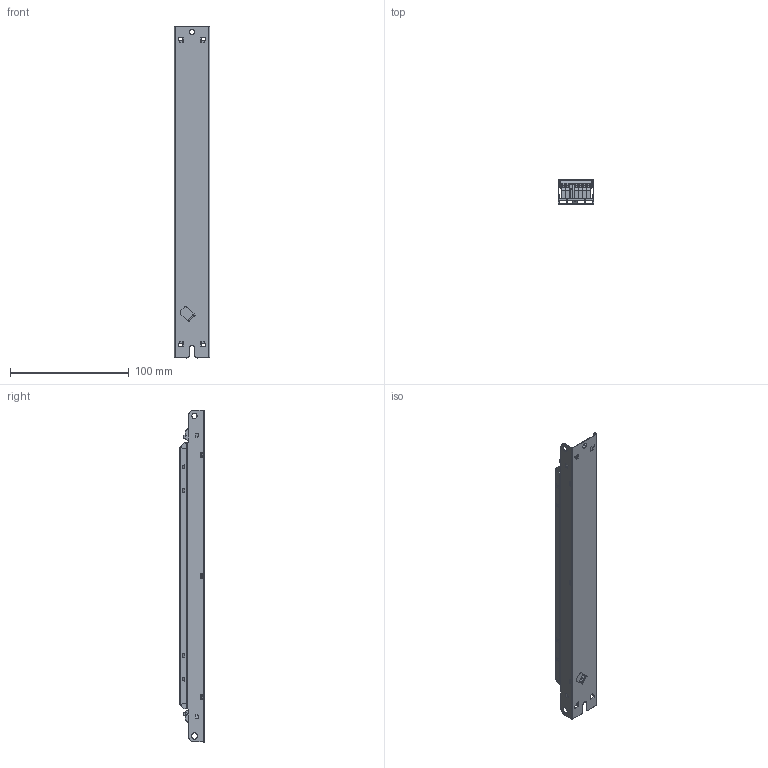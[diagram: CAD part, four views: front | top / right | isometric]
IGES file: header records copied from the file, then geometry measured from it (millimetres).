
Start section: SolidWorks IGES file using analytic representation for surfaces
Global section: file name: C:\Users\vuorinen_kari\Desktop\LLX150-E-CC\LL1x50-E-CC.IGS; native system: SolidWorks 2014; preprocessor: SolidWorks 2014; author: vuorinen_kari; date: 141014.104016; units: millimetre
Bounding box: 30 x 20.8 x 280 mm (x, y, z)
Surface area: 75293.8 mm2 (no closed solid volume)
Topology: 0 solids, 0 shells, 1421 faces, 10490 edges, 10477 vertices
Faces by surface type: bspline 820, revolution 601
